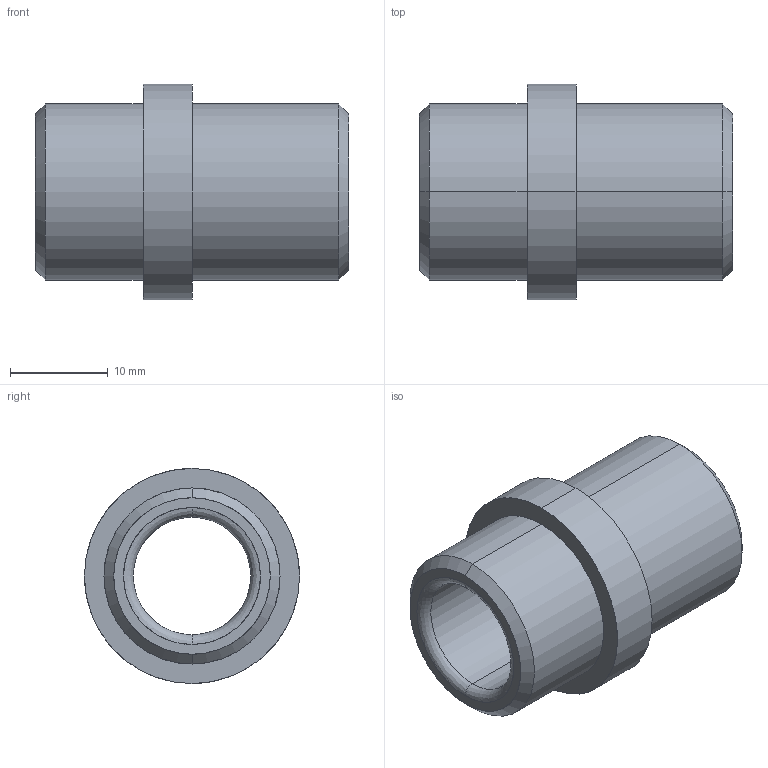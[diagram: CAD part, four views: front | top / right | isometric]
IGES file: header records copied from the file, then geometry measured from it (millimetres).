
Start section: START RECORD GO HERE.
Global section: file name: G403-12X32.igs; native system: DASSAULT SYSTEMES CATIA V5 R20 - www.3ds.com; preprocessor: CATIA Version 5 Release 20 ; author: Utente; organization: NB04-ASUS; date: 20210421.140022; units: millimetre
Bounding box: 32 x 22 x 22 mm (x, y, z)
Surface area: 3512.5 mm2 (no closed solid volume)
Topology: 0 solids, 0 shells, 20 faces, 128 edges, 128 vertices
Faces by surface type: revolution 16, plane 4
